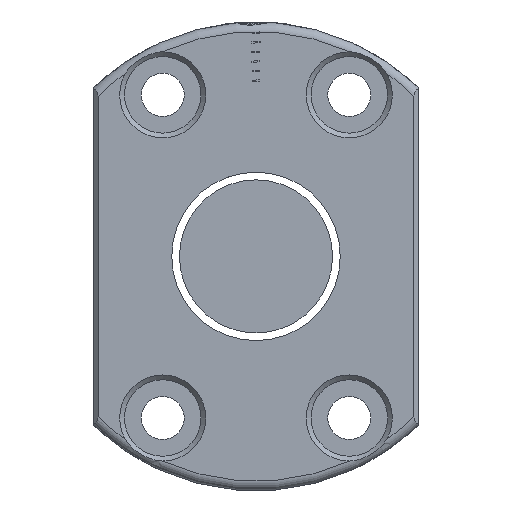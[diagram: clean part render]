
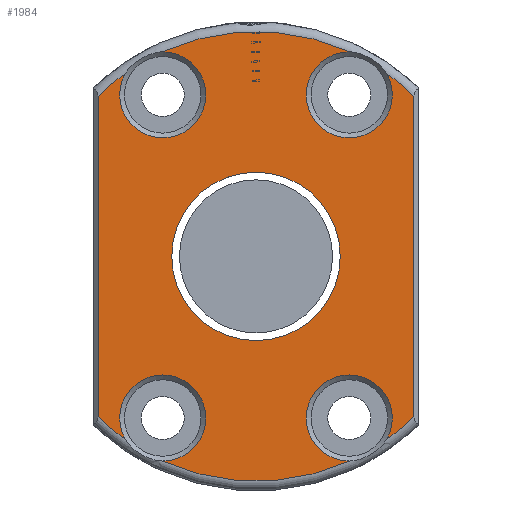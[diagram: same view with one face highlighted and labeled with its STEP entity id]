
A CAD part, left-side view. The second image highlights one B-rep face of the part: STEP entity #1984.
In plain terms, the highlighted planar face has unit normal (-1, 0, 0).
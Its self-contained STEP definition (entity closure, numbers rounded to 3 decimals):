
#2 = CARTESIAN_POINT ( 'NONE',  ( -45., -13.653, 19.127 ) ) ;
#24 = ORIENTED_EDGE ( 'NONE', *, *, #2710, .T. ) ;
#32 = EDGE_CURVE ( 'NONE', #523, #2814, #1265, .T. ) ;
#54 = PLANE ( 'NONE',  #2158 ) ;
#101 = FACE_BOUND ( 'NONE', #2592, .T. ) ;
#116 = DIRECTION ( 'NONE',  ( 0., 0., 1. ) ) ;
#139 = EDGE_CURVE ( 'NONE', #1143, #1597, #2570, .T. ) ;
#150 = CARTESIAN_POINT ( 'NONE',  ( -45., -9.75, -16.887 ) ) ;
#176 = CARTESIAN_POINT ( 'NONE',  ( -45., 16.5, -16.733 ) ) ;
#177 = DIRECTION ( 'NONE',  ( 0., 0., -1. ) ) ;
#192 = DIRECTION ( 'NONE',  ( 1., 0., 0. ) ) ;
#225 = CIRCLE ( 'NONE', #959, 23.5 ) ;
#279 = AXIS2_PLACEMENT_3D ( 'NONE', #1679, #895, #116 ) ;
#349 = CARTESIAN_POINT ( 'NONE',  ( -45., 9.738, -21.387 ) ) ;
#360 = CARTESIAN_POINT ( 'NONE',  ( -45., -16.5, 17.642 ) ) ;
#372 = VERTEX_POINT ( 'NONE', #1543 ) ;
#487 = EDGE_CURVE ( 'NONE', #1994, #3176, #2415, .T. ) ;
#523 = VERTEX_POINT ( 'NONE', #2173 ) ;
#541 = CARTESIAN_POINT ( 'NONE',  ( -45., -16.5, -16.733 ) ) ;
#588 = ORIENTED_EDGE ( 'NONE', *, *, #1054, .T. ) ;
#600 = DIRECTION ( 'NONE',  ( -1., 0., 0. ) ) ;
#656 = DIRECTION ( 'NONE',  ( 1., 0., 0. ) ) ;
#665 = EDGE_LOOP ( 'NONE', ( #1782, #1910, #2796, #1555, #2566, #2339, #1260, #1610, #1333, #2513, #588, #24 ) ) ;
#895 = DIRECTION ( 'NONE',  ( -1., 0., 0. ) ) ;
#909 = AXIS2_PLACEMENT_3D ( 'NONE', #1140, #3116, #3131 ) ;
#911 = CARTESIAN_POINT ( 'NONE',  ( -45., -9.738, -21.387 ) ) ;
#954 = DIRECTION ( 'NONE',  ( 0., 0., 1. ) ) ;
#955 = CARTESIAN_POINT ( 'NONE',  ( -45., 0., 0. ) ) ;
#959 = AXIS2_PLACEMENT_3D ( 'NONE', #1513, #2508, #2482 ) ;
#1040 = CARTESIAN_POINT ( 'NONE',  ( -45., -16.5, 16.733 ) ) ;
#1054 = EDGE_CURVE ( 'NONE', #1278, #1443, #1123, .T. ) ;
#1073 = CIRCLE ( 'NONE', #1954, 23.5 ) ;
#1080 = CARTESIAN_POINT ( 'NONE',  ( -45., 0., 0. ) ) ;
#1123 = CIRCLE ( 'NONE', #1485, 4.5 ) ;
#1140 = CARTESIAN_POINT ( 'NONE',  ( -45., 0., 0. ) ) ;
#1143 = VERTEX_POINT ( 'NONE', #2920 ) ;
#1201 = DIRECTION ( 'NONE',  ( 0., 0., 1. ) ) ;
#1227 = AXIS2_PLACEMENT_3D ( 'NONE', #2208, #192, #1201 ) ;
#1230 = VERTEX_POINT ( 'NONE', #911 ) ;
#1260 = ORIENTED_EDGE ( 'NONE', *, *, #2785, .T. ) ;
#1265 = CIRCLE ( 'NONE', #2361, 23.5 ) ;
#1278 = VERTEX_POINT ( 'NONE', #1357 ) ;
#1288 = CARTESIAN_POINT ( 'NONE',  ( -45., 24.5, 0. ) ) ;
#1294 = VERTEX_POINT ( 'NONE', #1040 ) ;
#1325 = EDGE_CURVE ( 'NONE', #3176, #1143, #1073, .T. ) ;
#1333 = ORIENTED_EDGE ( 'NONE', *, *, #1649, .T. ) ;
#1352 = DIRECTION ( 'NONE',  ( 0., 0., 1. ) ) ;
#1357 = CARTESIAN_POINT ( 'NONE',  ( -45., 9.738, 21.387 ) ) ;
#1400 = CARTESIAN_POINT ( 'NONE',  ( -45., 0., 0. ) ) ;
#1403 = CARTESIAN_POINT ( 'NONE',  ( -45., 9.75, 16.887 ) ) ;
#1438 = DIRECTION ( 'NONE',  ( 0., 0., 1. ) ) ;
#1443 = VERTEX_POINT ( 'NONE', #2664 ) ;
#1485 = AXIS2_PLACEMENT_3D ( 'NONE', #1403, #2117, #3122 ) ;
#1487 = AXIS2_PLACEMENT_3D ( 'NONE', #1628, #2425, #1612 ) ;
#1513 = CARTESIAN_POINT ( 'NONE',  ( -45., 0., 0. ) ) ;
#1543 = CARTESIAN_POINT ( 'NONE',  ( -45., -9.738, 21.387 ) ) ;
#1555 = ORIENTED_EDGE ( 'NONE', *, *, #2136, .T. ) ;
#1597 = VERTEX_POINT ( 'NONE', #349 ) ;
#1610 = ORIENTED_EDGE ( 'NONE', *, *, #1789, .T. ) ;
#1612 = DIRECTION ( 'NONE',  ( 0., 0., 1. ) ) ;
#1628 = CARTESIAN_POINT ( 'NONE',  ( -45., 0., 0. ) ) ;
#1631 = VECTOR ( 'NONE', #177, 1000. ) ;
#1649 = EDGE_CURVE ( 'NONE', #1840, #372, #1849, .T. ) ;
#1675 = DIRECTION ( 'NONE',  ( -1., 0., 0. ) ) ;
#1679 = CARTESIAN_POINT ( 'NONE',  ( -45., 0., 0. ) ) ;
#1716 = ORIENTED_EDGE ( 'NONE', *, *, #2608, .T. ) ;
#1782 = ORIENTED_EDGE ( 'NONE', *, *, #487, .T. ) ;
#1789 = EDGE_CURVE ( 'NONE', #1294, #1840, #225, .T. ) ;
#1814 = DIRECTION ( 'NONE',  ( 0., 0., 1. ) ) ;
#1840 = VERTEX_POINT ( 'NONE', #2 ) ;
#1849 = CIRCLE ( 'NONE', #1227, 4.5 ) ;
#1910 = ORIENTED_EDGE ( 'NONE', *, *, #1325, .T. ) ;
#1947 = CARTESIAN_POINT ( 'NONE',  ( -45., 16.5, -17.642 ) ) ;
#1954 = AXIS2_PLACEMENT_3D ( 'NONE', #1080, #2783, #2293 ) ;
#1984 = ADVANCED_FACE ( 'NONE', ( #2297, #101 ), #54, .T. ) ;
#1991 = VERTEX_POINT ( 'NONE', #3208 ) ;
#1994 = VERTEX_POINT ( 'NONE', #2084 ) ;
#2084 = CARTESIAN_POINT ( 'NONE',  ( -45., 16.5, 16.733 ) ) ;
#2117 = DIRECTION ( 'NONE',  ( 1., 0., 0. ) ) ;
#2118 = DIRECTION ( 'NONE',  ( 1., 0., 0. ) ) ;
#2136 = EDGE_CURVE ( 'NONE', #1597, #1230, #2894, .T. ) ;
#2158 = AXIS2_PLACEMENT_3D ( 'NONE', #1288, #600, #1814 ) ;
#2173 = CARTESIAN_POINT ( 'NONE',  ( -45., -13.653, -19.127 ) ) ;
#2208 = CARTESIAN_POINT ( 'NONE',  ( -45., -9.75, 16.887 ) ) ;
#2214 = DIRECTION ( 'NONE',  ( 0., 0., -1. ) ) ;
#2265 = AXIS2_PLACEMENT_3D ( 'NONE', #955, #2738, #2214 ) ;
#2293 = DIRECTION ( 'NONE',  ( 0., 0., 1. ) ) ;
#2297 = FACE_OUTER_BOUND ( 'NONE', #665, .T. ) ;
#2304 = EDGE_CURVE ( 'NONE', #372, #1278, #3104, .T. ) ;
#2321 = AXIS2_PLACEMENT_3D ( 'NONE', #150, #2118, #1438 ) ;
#2339 = ORIENTED_EDGE ( 'NONE', *, *, #32, .T. ) ;
#2342 = LINE ( 'NONE', #360, #2373 ) ;
#2344 = EDGE_CURVE ( 'NONE', #1230, #523, #2633, .T. ) ;
#2361 = AXIS2_PLACEMENT_3D ( 'NONE', #1400, #1675, #954 ) ;
#2373 = VECTOR ( 'NONE', #1352, 1000. ) ;
#2389 = DIRECTION ( 'NONE',  ( 0., 0., 1. ) ) ;
#2415 = LINE ( 'NONE', #1947, #1631 ) ;
#2425 = DIRECTION ( 'NONE',  ( -1., 0., 0. ) ) ;
#2482 = DIRECTION ( 'NONE',  ( 0., 0., 1. ) ) ;
#2508 = DIRECTION ( 'NONE',  ( -1., 0., 0. ) ) ;
#2513 = ORIENTED_EDGE ( 'NONE', *, *, #2304, .T. ) ;
#2524 = CIRCLE ( 'NONE', #2265, 8.8 ) ;
#2566 = ORIENTED_EDGE ( 'NONE', *, *, #2344, .T. ) ;
#2570 = CIRCLE ( 'NONE', #2775, 4.5 ) ;
#2592 = EDGE_LOOP ( 'NONE', ( #1716 ) ) ;
#2608 = EDGE_CURVE ( 'NONE', #1991, #1991, #2524, .T. ) ;
#2633 = CIRCLE ( 'NONE', #2321, 4.5 ) ;
#2664 = CARTESIAN_POINT ( 'NONE',  ( -45., 13.653, 19.127 ) ) ;
#2683 = CIRCLE ( 'NONE', #909, 23.5 ) ;
#2710 = EDGE_CURVE ( 'NONE', #1443, #1994, #2683, .T. ) ;
#2738 = DIRECTION ( 'NONE',  ( 1., 0., 0. ) ) ;
#2775 = AXIS2_PLACEMENT_3D ( 'NONE', #3167, #656, #2389 ) ;
#2783 = DIRECTION ( 'NONE',  ( -1., 0., 0. ) ) ;
#2785 = EDGE_CURVE ( 'NONE', #2814, #1294, #2342, .T. ) ;
#2796 = ORIENTED_EDGE ( 'NONE', *, *, #139, .T. ) ;
#2814 = VERTEX_POINT ( 'NONE', #541 ) ;
#2894 = CIRCLE ( 'NONE', #1487, 23.5 ) ;
#2920 = CARTESIAN_POINT ( 'NONE',  ( -45., 13.653, -19.127 ) ) ;
#3104 = CIRCLE ( 'NONE', #279, 23.5 ) ;
#3116 = DIRECTION ( 'NONE',  ( -1., 0., 0. ) ) ;
#3122 = DIRECTION ( 'NONE',  ( 0., 0., 1. ) ) ;
#3131 = DIRECTION ( 'NONE',  ( 0., 0., 1. ) ) ;
#3167 = CARTESIAN_POINT ( 'NONE',  ( -45., 9.75, -16.887 ) ) ;
#3176 = VERTEX_POINT ( 'NONE', #176 ) ;
#3208 = CARTESIAN_POINT ( 'NONE',  ( -45., 0., -8.8 ) ) ;
